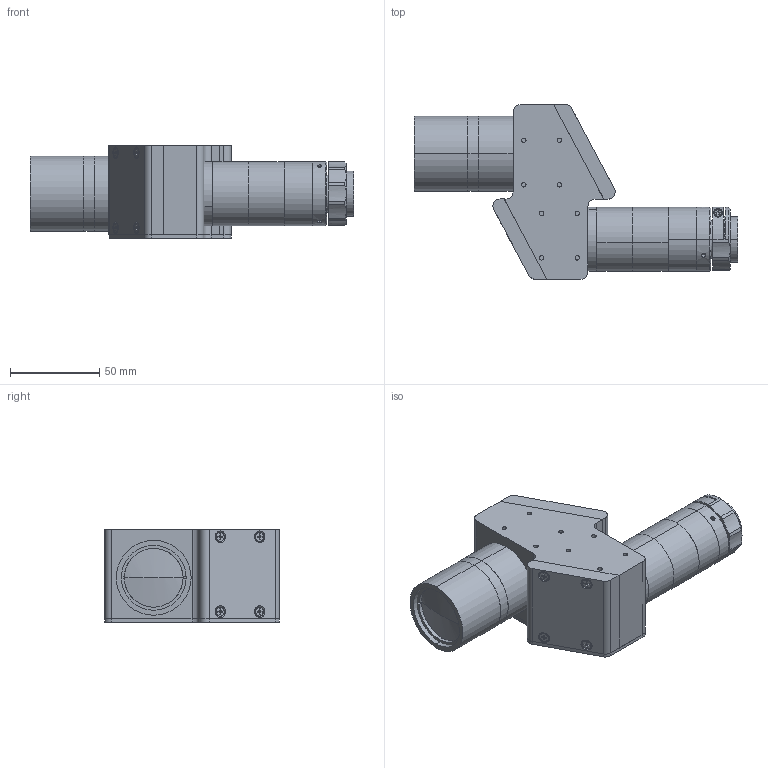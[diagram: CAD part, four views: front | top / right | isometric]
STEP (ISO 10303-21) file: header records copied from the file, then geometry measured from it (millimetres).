
FILE_DESCRIPTION (( 'STEP AP203' ), '1' );
FILE_NAME ('XF-MH085X241.STEP', '2020-08-24T07:14:52', ( 'canrill-02' ), ( '' ), 'SwSTEP 2.0', 'SolidWorks 2014', '' );
FILE_SCHEMA (( 'CONFIG_CONTROL_DESIGN' ));
Length unit declared in the file: millimetre
Products named in the file (1): XF-MH085X241
Bounding box: 181.38 x 98 x 52 mm (x, y, z)
Surface area: 47757.1 mm2 (no closed solid volume)
Topology: 0 solids, 34 shells, 413 faces, 1310 edges, 900 vertices
Faces by surface type: plane 213, cylinder 155, cone 41, sphere 2, torus 2
Entity records: 14793 total; most frequent: CARTESIAN_POINT 2943, DIRECTION 2576, ORIENTED_EDGE 2159, EDGE_CURVE 1308, VERTEX_POINT 900, AXIS2_PLACEMENT_3D 877, VECTOR 822, LINE 822
